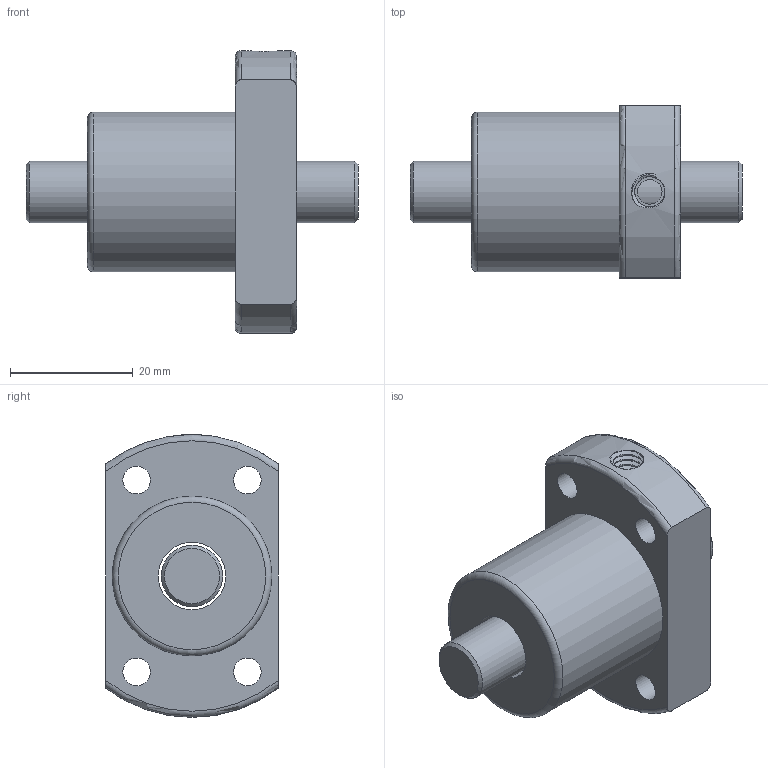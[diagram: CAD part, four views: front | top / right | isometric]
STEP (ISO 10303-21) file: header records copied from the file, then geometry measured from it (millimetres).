
FILE_DESCRIPTION(/* description */ ('Unknown','CAx-IF Rec.Pracs.---Representation and Presentation of Product Manufacturing Information (PMI)---4.0---2014-10-13','CAx-IF Rec.Pracs.---3D Tessellated Geometry---0.4---2014-09-14','2;1'),/* implementation_level */ '2;1');
FILE_NAME(/* name */ 'SFK01004',/* time_stamp */ '2020-12-06T14:08:29+08:00',/* author */ ('Unknown'),/* organization */ ('Unknown'),/* preprocessor_version */ 'ST-DEVELOPER v16.7',/* originating_system */ 'Solid Edge',/* authorisation */ 'Unknown');
FILE_SCHEMA (('AP242_MANAGED_MODEL_BASED_3D_ENGINEERING_MIM_LF { 1 0 10303 442 1 1 4 }'));
Length unit declared in the file: millimetre
Products named in the file (1): SFK01004
Bounding box: 54 x 28 x 46 mm (x, y, z)
Volume: 24177 mm3; surface area: 9381 mm2
Topology: 2 solids, 2 shells, 37 faces, 95 edges, 64 vertices
Faces by surface type: cylinder 16, plane 12, torus 5, bspline 2, cone 2
Full cylindrical faces by diameter (mm): 4 x1, 4.5 x4, 8 x4, 10 x1, 11 x1, 26 x1
Entity records: 3412 total; most frequent: CARTESIAN_POINT 2532, DIRECTION 174, ORIENTED_EDGE 142, AXIS2_PLACEMENT_3D 84, EDGE_CURVE 71, EDGE_LOOP 66, FACE_BOUND 66, VERTEX_POINT 55
